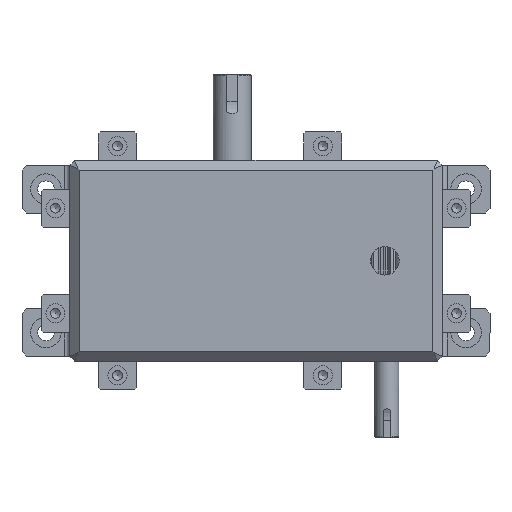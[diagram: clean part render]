
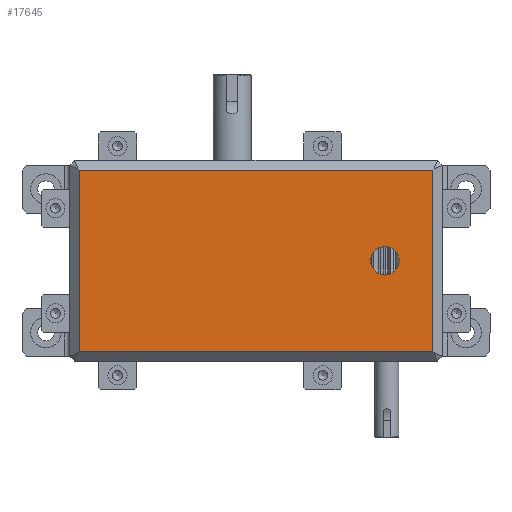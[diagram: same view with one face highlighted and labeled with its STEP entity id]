
A CAD part, left-side view. The second image highlights one B-rep face of the part: STEP entity #17645.
In plain terms, the highlighted planar face has unit normal (-1, 0, 0) as drawn and (1, 0, 0) by its records, which use the part's own axes.
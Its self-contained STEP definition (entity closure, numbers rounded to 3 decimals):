
#429=FACE_BOUND('',#2565,.T.);
#650=PLANE('',#20107);
#1553=FACE_OUTER_BOUND('',#2564,.T.);
#2564=EDGE_LOOP('',(#15645,#15646,#15647,#15648));
#2565=EDGE_LOOP('',(#15649));
#3660=LINE('',#32986,#4864);
#3665=LINE('',#32996,#4869);
#3666=LINE('',#32998,#4870);
#3667=LINE('',#32999,#4871);
#4864=VECTOR('',#25493,10.);
#4869=VECTOR('',#25500,10.);
#4870=VECTOR('',#25501,10.);
#4871=VECTOR('',#25502,10.);
#6396=CIRCLE('',#20104,14.917);
#8032=VERTEX_POINT('',#32976);
#8035=VERTEX_POINT('',#32983);
#8036=VERTEX_POINT('',#32985);
#8040=VERTEX_POINT('',#32995);
#8041=VERTEX_POINT('',#32997);
#10600=EDGE_CURVE('',#8032,#8032,#6396,.T.);
#10604=EDGE_CURVE('',#8035,#8036,#3660,.T.);
#10609=EDGE_CURVE('',#8040,#8035,#3665,.T.);
#10610=EDGE_CURVE('',#8041,#8040,#3666,.T.);
#10611=EDGE_CURVE('',#8036,#8041,#3667,.T.);
#15645=ORIENTED_EDGE('',*,*,#10604,.F.);
#15646=ORIENTED_EDGE('',*,*,#10609,.F.);
#15647=ORIENTED_EDGE('',*,*,#10610,.F.);
#15648=ORIENTED_EDGE('',*,*,#10611,.F.);
#15649=ORIENTED_EDGE('',*,*,#10600,.T.);
#17645=ADVANCED_FACE('',(#1553,#429),#650,.F.);
#20104=AXIS2_PLACEMENT_3D('',#32977,#25485,#25486);
#20107=AXIS2_PLACEMENT_3D('',#32994,#25498,#25499);
#25485=DIRECTION('center_axis',(-1.,0.,0.));
#25486=DIRECTION('ref_axis',(0.,0.,-1.));
#25493=DIRECTION('',(0.,0.,1.));
#25498=DIRECTION('center_axis',(-1.,0.,0.));
#25499=DIRECTION('ref_axis',(0.,0.,1.));
#25500=DIRECTION('',(0.,-1.,0.));
#25501=DIRECTION('',(0.,0.,-1.));
#25502=DIRECTION('',(0.,1.,0.));
#32976=CARTESIAN_POINT('',(180.,2.,119.917));
#32977=CARTESIAN_POINT('Origin',(180.,2.,105.));
#32983=CARTESIAN_POINT('',(180.,-48.,10.));
#32985=CARTESIAN_POINT('',(180.,-48.,200.));
#32986=CARTESIAN_POINT('',(180.,-48.,52.5));
#32994=CARTESIAN_POINT('Origin',(180.,137.,105.));
#32995=CARTESIAN_POINT('',(180.,322.,10.));
#32996=CARTESIAN_POINT('',(180.,137.,10.));
#32997=CARTESIAN_POINT('',(180.,322.,200.));
#32998=CARTESIAN_POINT('',(180.,322.,52.5));
#32999=CARTESIAN_POINT('',(180.,137.,200.));
